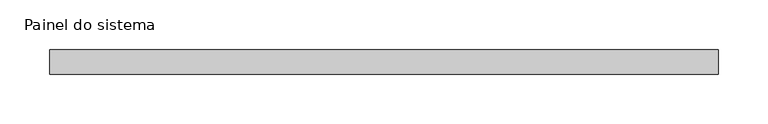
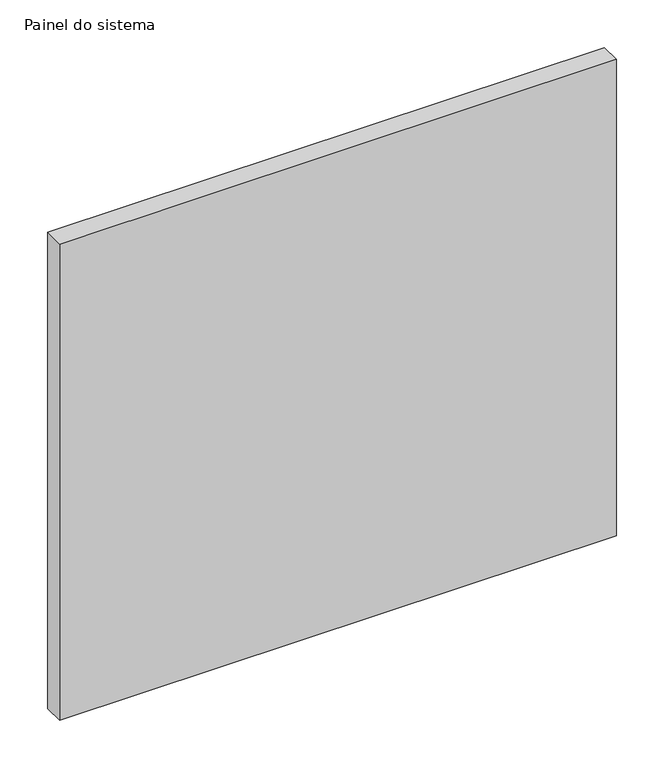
"""IFC4 building model written with IfcOpenShell, lengths in millimetres: plate geometry, Painel do sistema : Envidraçado."""

from ifc_helpers import new_model, si_unit, origin, origin_with_axes, place, context, project, spatial, polyline, outline, extrude, source, transform, mapped, element, save


def painel_do_sistema_dee81736(model_context):
    return source(origin(), model_context, "Body", "SweptSolid", [
        extrude(outline(polyline([(337.5, 24.5), (-337.5, 24.5), (-337.5, 49.5), (337.5, 49.5), (337.5, 24.5)])), origin_with_axes(), (0.0, 0.0, 1.0), 610.0),
    ])


if __name__ == "__main__":
    model = new_model("IFC4")
    model_context = context("Model", 3, world=origin())
    ifc_project = project(units=[si_unit("LENGTHUNIT", "METRE", prefix="MILLI")], contexts=[model_context])
    site = spatial("IfcSite", under=ifc_project)
    building = spatial("IfcBuilding", under=site)
    placement = place(None, origin())
    painel_do_sistema_shape = painel_do_sistema_dee81736(model_context)
    element("IfcPlate", 1, ObjectType="Painel do sistema : Envidraçado", at=placement, inside=building, context=model_context, shape_type="MappedRepresentation", body=[
        mapped(painel_do_sistema_shape, transform((0.0, 0.0, 0.0), x_axis=(1.0, 0.0, 0.0), y_axis=(0.0, 1.0, 0.0), z_axis=(0.0, 0.0, 1.0))),
    ])
    save(model, "model.ifc")
